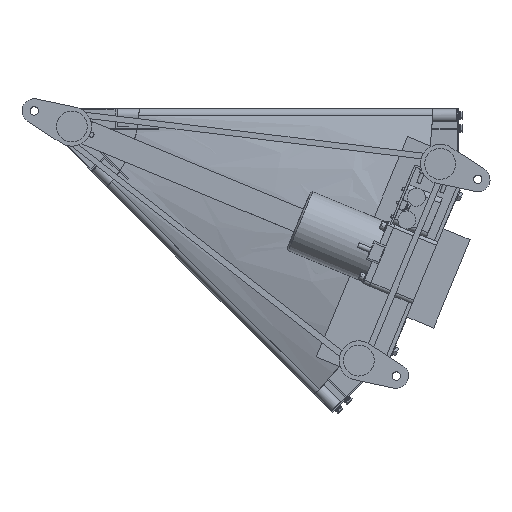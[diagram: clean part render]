
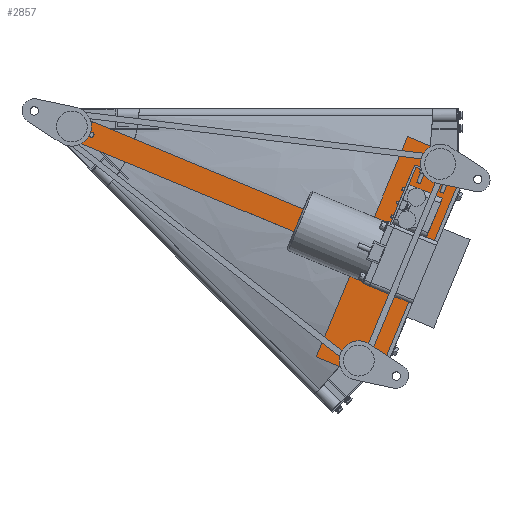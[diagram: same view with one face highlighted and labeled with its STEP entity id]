
A CAD part, front view. The second image highlights one B-rep face of the part: STEP entity #2857.
In plain terms, the highlighted planar face has unit normal (0, -1, 0).
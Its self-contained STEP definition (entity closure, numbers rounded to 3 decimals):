
#2857=ADVANCED_FACE('',(#6846),#6845,.T.);
#6845=PLANE('',#19315);
#6846=FACE_OUTER_BOUND('',#19316,.T.);
#19312=CARTESIAN_POINT('',(37.463,-167.5,10.581));
#19313=DIRECTION('',(0.,-1.,0.));
#19314=DIRECTION('',(-0.078,0.,-0.997));
#19315=AXIS2_PLACEMENT_3D('',#19312,#19313,#19314);
#19316=EDGE_LOOP('',(#26672,#26673,#26674,#26675,#26676,#26677,#26678,#26679,#26680,#26681));
#26672=ORIENTED_EDGE('',*,*,#31539,.F.);
#26673=ORIENTED_EDGE('',*,*,#31544,.F.);
#26674=ORIENTED_EDGE('',*,*,#31526,.F.);
#26675=ORIENTED_EDGE('',*,*,#31522,.F.);
#26676=ORIENTED_EDGE('',*,*,#31529,.F.);
#26677=ORIENTED_EDGE('',*,*,#31545,.F.);
#26678=ORIENTED_EDGE('',*,*,#31546,.F.);
#26679=ORIENTED_EDGE('',*,*,#31547,.F.);
#26680=ORIENTED_EDGE('',*,*,#31548,.F.);
#26681=ORIENTED_EDGE('',*,*,#31549,.F.);
#31522=EDGE_CURVE('',#38308,#38309,#38310,.T.);
#31526=EDGE_CURVE('',#38309,#38336,#38337,.T.);
#31529=EDGE_CURVE('',#38356,#38308,#38357,.T.);
#31539=EDGE_CURVE('',#38424,#38425,#38426,.T.);
#31544=EDGE_CURVE('',#38336,#38424,#38458,.T.);
#31545=EDGE_CURVE('',#38464,#38356,#38465,.T.);
#31546=EDGE_CURVE('',#38471,#38464,#38472,.T.);
#31547=EDGE_CURVE('',#38478,#38471,#38479,.T.);
#31548=EDGE_CURVE('',#38485,#38478,#38486,.T.);
#31549=EDGE_CURVE('',#38425,#38485,#38492,.T.);
#38308=VERTEX_POINT('',#55848);
#38309=VERTEX_POINT('',#55849);
#38310=LINE('',#55850,#55851);
#38336=VERTEX_POINT('',#55864);
#38337=LINE('',#55865,#55866);
#38356=VERTEX_POINT('',#55875);
#38357=LINE('',#55876,#55877);
#38424=VERTEX_POINT('',#55913);
#38425=VERTEX_POINT('',#55914);
#38426=LINE('',#55915,#55916);
#38458=LINE('',#55932,#55933);
#38464=VERTEX_POINT('',#55935);
#38465=LINE('',#55936,#55937);
#38471=VERTEX_POINT('',#55939);
#38472=LINE('',#55940,#55941);
#38478=VERTEX_POINT('',#55943);
#38479=LINE('',#55944,#55945);
#38485=VERTEX_POINT('',#55947);
#38486=LINE('',#55948,#55949);
#38492=LINE('',#55951,#55952);
#55848=CARTESIAN_POINT('',(550.589,-167.5,-390.42));
#55849=CARTESIAN_POINT('',(518.717,-167.5,-415.102));
#55850=CARTESIAN_POINT('',(550.589,-167.5,-390.42));
#55851=VECTOR('',#55852,40.311);
#55852=DIRECTION('',(-0.791,0.,-0.612));
#55864=CARTESIAN_POINT('',(444.807,-167.5,-384.488));
#55865=CARTESIAN_POINT('',(518.717,-167.5,-415.102));
#55866=VECTOR('',#55867,80.);
#55867=DIRECTION('',(-0.924,0.,0.383));
#55875=CARTESIAN_POINT('',(665.394,-167.5,-113.256));
#55876=CARTESIAN_POINT('',(665.394,-167.5,-113.256));
#55877=VECTOR('',#55878,300.);
#55878=DIRECTION('',(-0.383,0.,-0.924));
#55913=CARTESIAN_POINT('',(508.332,-167.5,-231.124));
#55914=CARTESIAN_POINT('',(43.621,-167.5,-38.634));
#55915=CARTESIAN_POINT('',(508.332,-167.5,-231.124));
#55916=VECTOR('',#55917,503.);
#55917=DIRECTION('',(-0.924,0.,0.383));
#55932=CARTESIAN_POINT('',(444.807,-167.5,-384.488));
#55933=VECTOR('',#55934,166.);
#55934=DIRECTION('',(0.383,0.,0.924));
#55935=CARTESIAN_POINT('',(660.31,-167.5,-73.267));
#55936=CARTESIAN_POINT('',(660.31,-167.5,-73.267));
#55937=VECTOR('',#55938,40.311);
#55938=DIRECTION('',(0.126,0.,-0.992));
#55939=CARTESIAN_POINT('',(586.4,-167.5,-42.652));
#55940=CARTESIAN_POINT('',(586.4,-167.5,-42.652));
#55941=VECTOR('',#55942,80.);
#55942=DIRECTION('',(0.924,0.,-0.383));
#55943=CARTESIAN_POINT('',(522.874,-167.5,-196.016));
#55944=CARTESIAN_POINT('',(522.874,-167.5,-196.016));
#55945=VECTOR('',#55946,166.);
#55946=DIRECTION('',(0.383,0.,0.924));
#55947=CARTESIAN_POINT('',(58.163,-167.5,-3.526));
#55948=CARTESIAN_POINT('',(58.163,-167.5,-3.526));
#55949=VECTOR('',#55950,503.);
#55950=DIRECTION('',(0.924,0.,-0.383));
#55951=CARTESIAN_POINT('',(43.621,-167.5,-38.634));
#55952=VECTOR('',#55953,38.);
#55953=DIRECTION('',(0.383,0.,0.924));
